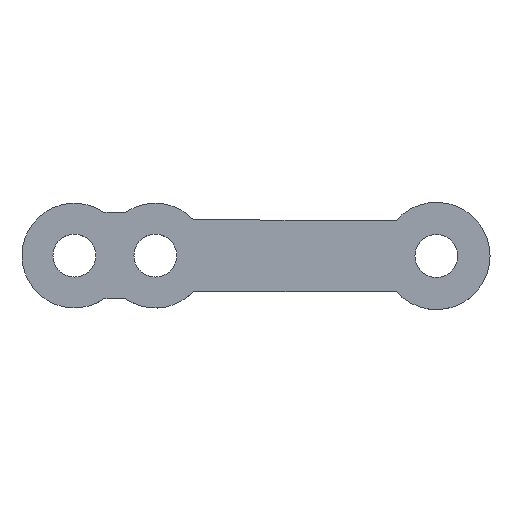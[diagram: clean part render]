
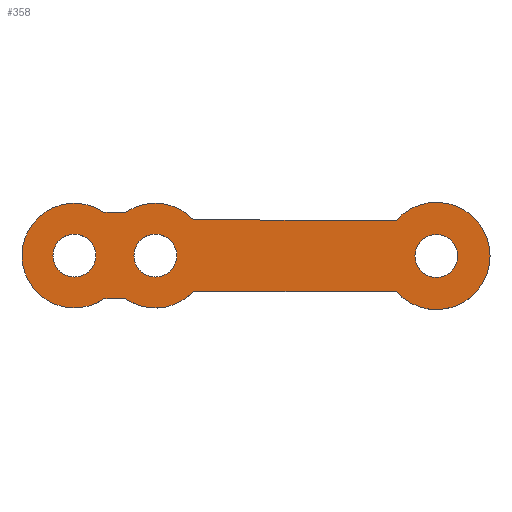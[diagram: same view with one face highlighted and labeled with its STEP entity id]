
A CAD part, top view. The second image highlights one B-rep face of the part: STEP entity #358.
In plain terms, the highlighted planar face has unit normal (0, 0, 1).
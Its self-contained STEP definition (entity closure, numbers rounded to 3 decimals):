
#2 = EDGE_CURVE ( 'NONE', #138, #452, #392, .T. ) ;
#4 = DIRECTION ( 'NONE',  ( 0., 0., 1. ) ) ;
#6 = LINE ( 'NONE', #58, #19 ) ;
#19 = VECTOR ( 'NONE', #344, 1000. ) ;
#28 = CARTESIAN_POINT ( 'NONE',  ( -50.019, -13.106, 2.5 ) ) ;
#32 = VERTEX_POINT ( 'NONE', #627 ) ;
#34 = VERTEX_POINT ( 'NONE', #206 ) ;
#44 = CIRCLE ( 'NONE', #70, 5.629 ) ;
#46 = EDGE_CURVE ( 'NONE', #330, #340, #113, .T. ) ;
#50 = CARTESIAN_POINT ( 'NONE',  ( -64.019, -13.106, 2.5 ) ) ;
#58 = CARTESIAN_POINT ( 'NONE',  ( 0., -8.561, 2.5 ) ) ;
#59 = EDGE_CURVE ( 'NONE', #621, #575, #446, .T. ) ;
#63 = VERTEX_POINT ( 'NONE', #50 ) ;
#70 = AXIS2_PLACEMENT_3D ( 'NONE', #150, #172, #599 ) ;
#71 = AXIS2_PLACEMENT_3D ( 'NONE', #79, #290, #426 ) ;
#79 = CARTESIAN_POINT ( 'NONE',  ( -58.519, -13.106, 2.5 ) ) ;
#89 = DIRECTION ( 'NONE',  ( 1., 0., 0. ) ) ;
#90 = CARTESIAN_POINT ( 'NONE',  ( -55.421, -8.561, 2.5 ) ) ;
#92 = EDGE_LOOP ( 'NONE', ( #309, #250, #154, #311, #356, #378, #310, #116, #269 ) ) ;
#93 = CIRCLE ( 'NONE', #388, 2.25 ) ;
#94 = DIRECTION ( 'NONE',  ( 1., -0.002, 0. ) ) ;
#99 = CARTESIAN_POINT ( 'NONE',  ( -20.519, -13.146, 2.5 ) ) ;
#100 = DIRECTION ( 'NONE',  ( 1., 0., 0. ) ) ;
#105 = EDGE_CURVE ( 'NONE', #32, #347, #6, .T. ) ;
#107 = AXIS2_PLACEMENT_3D ( 'NONE', #464, #205, #213 ) ;
#108 = DIRECTION ( 'NONE',  ( 1., 0., 0. ) ) ;
#113 = CIRCLE ( 'NONE', #576, 5.5 ) ;
#114 = CARTESIAN_POINT ( 'NONE',  ( -45.995, -16.856, 2.5 ) ) ;
#116 = ORIENTED_EDGE ( 'NONE', *, *, #482, .T. ) ;
#120 = CARTESIAN_POINT ( 'NONE',  ( -0.018, -9.442, 2.5 ) ) ;
#123 = LINE ( 'NONE', #629, #200 ) ;
#125 = DIRECTION ( 'NONE',  ( 1., 0., 0. ) ) ;
#128 = VERTEX_POINT ( 'NONE', #403 ) ;
#133 = DIRECTION ( 'NONE',  ( 0., 0., -1. ) ) ;
#138 = VERTEX_POINT ( 'NONE', #598 ) ;
#139 = EDGE_CURVE ( 'NONE', #257, #128, #93, .T. ) ;
#142 = CIRCLE ( 'NONE', #528, 5.5 ) ;
#150 = CARTESIAN_POINT ( 'NONE',  ( -20.519, -13.146, 2.5 ) ) ;
#154 = ORIENTED_EDGE ( 'NONE', *, *, #105, .T. ) ;
#155 = VECTOR ( 'NONE', #332, 1000. ) ;
#172 = DIRECTION ( 'NONE',  ( 0., 0., 1. ) ) ;
#179 = CARTESIAN_POINT ( 'NONE',  ( -58.519, -13.106, 2.5 ) ) ;
#189 = DIRECTION ( 'NONE',  ( 0., 0., 1. ) ) ;
#194 = DIRECTION ( 'NONE',  ( 0., 0., 1. ) ) ;
#199 = CIRCLE ( 'NONE', #71, 5.5 ) ;
#200 = VECTOR ( 'NONE', #467, 1000. ) ;
#202 = EDGE_LOOP ( 'NONE', ( #470, #391 ) ) ;
#204 = EDGE_CURVE ( 'NONE', #416, #340, #123, .T. ) ;
#205 = DIRECTION ( 'NONE',  ( 0., 0., 1. ) ) ;
#206 = CARTESIAN_POINT ( 'NONE',  ( -24.717, -9.396, 2.5 ) ) ;
#213 = DIRECTION ( 'NONE',  ( 1., 0., 0. ) ) ;
#217 = LINE ( 'NONE', #568, #457 ) ;
#246 = ORIENTED_EDGE ( 'NONE', *, *, #139, .F. ) ;
#250 = ORIENTED_EDGE ( 'NONE', *, *, #579, .T. ) ;
#257 = VERTEX_POINT ( 'NONE', #502 ) ;
#260 = EDGE_CURVE ( 'NONE', #494, #34, #44, .T. ) ;
#267 = EDGE_LOOP ( 'NONE', ( #551, #505 ) ) ;
#269 = ORIENTED_EDGE ( 'NONE', *, *, #260, .T. ) ;
#270 = EDGE_CURVE ( 'NONE', #128, #257, #478, .T. ) ;
#275 = AXIS2_PLACEMENT_3D ( 'NONE', #28, #4, #620 ) ;
#276 = DIRECTION ( 'NONE',  ( 1., 0., 0. ) ) ;
#283 = EDGE_CURVE ( 'NONE', #63, #416, #142, .T. ) ;
#290 = DIRECTION ( 'NONE',  ( 0., 0., 1. ) ) ;
#293 = FACE_BOUND ( 'NONE', #563, .T. ) ;
#303 = AXIS2_PLACEMENT_3D ( 'NONE', #560, #194, #89 ) ;
#309 = ORIENTED_EDGE ( 'NONE', *, *, #451, .T. ) ;
#310 = ORIENTED_EDGE ( 'NONE', *, *, #46, .F. ) ;
#311 = ORIENTED_EDGE ( 'NONE', *, *, #443, .T. ) ;
#317 = CARTESIAN_POINT ( 'NONE',  ( -50.019, -13.106, 2.5 ) ) ;
#325 = CARTESIAN_POINT ( 'NONE',  ( -47.769, -13.106, 2.5 ) ) ;
#329 = ORIENTED_EDGE ( 'NONE', *, *, #270, .F. ) ;
#330 = VERTEX_POINT ( 'NONE', #114 ) ;
#332 = DIRECTION ( 'NONE',  ( -1., 0.002, 0. ) ) ;
#340 = VERTEX_POINT ( 'NONE', #538 ) ;
#344 = DIRECTION ( 'NONE',  ( -1., 0., 0. ) ) ;
#347 = VERTEX_POINT ( 'NONE', #90 ) ;
#350 = CARTESIAN_POINT ( 'NONE',  ( -45.995, -9.356, 2.5 ) ) ;
#356 = ORIENTED_EDGE ( 'NONE', *, *, #283, .T. ) ;
#358 = ADVANCED_FACE ( 'NONE', ( #581, #387, #631, #293 ), #436, .T. ) ;
#362 = CIRCLE ( 'NONE', #107, 5.5 ) ;
#378 = ORIENTED_EDGE ( 'NONE', *, *, #204, .T. ) ;
#379 = EDGE_CURVE ( 'NONE', #575, #621, #411, .T. ) ;
#382 = DIRECTION ( 'NONE',  ( 0., 0., 1. ) ) ;
#387 = FACE_BOUND ( 'NONE', #267, .T. ) ;
#388 = AXIS2_PLACEMENT_3D ( 'NONE', #179, #421, #125 ) ;
#389 = CARTESIAN_POINT ( 'NONE',  ( -20.519, -13.146, 2.5 ) ) ;
#391 = ORIENTED_EDGE ( 'NONE', *, *, #379, .F. ) ;
#392 = CIRCLE ( 'NONE', #572, 2.25 ) ;
#397 = CARTESIAN_POINT ( 'NONE',  ( -58.519, -13.106, 2.5 ) ) ;
#403 = CARTESIAN_POINT ( 'NONE',  ( -60.769, -13.106, 2.5 ) ) ;
#411 = CIRCLE ( 'NONE', #571, 2.25 ) ;
#416 = VERTEX_POINT ( 'NONE', #486 ) ;
#421 = DIRECTION ( 'NONE',  ( 0., 0., 1. ) ) ;
#426 = DIRECTION ( 'NONE',  ( 1., 0., 0. ) ) ;
#429 = CARTESIAN_POINT ( 'NONE',  ( -50.019, -13.106, 2.5 ) ) ;
#436 = PLANE ( 'NONE',  #303 ) ;
#439 = VERTEX_POINT ( 'NONE', #350 ) ;
#443 = EDGE_CURVE ( 'NONE', #347, #63, #199, .T. ) ;
#444 = AXIS2_PLACEMENT_3D ( 'NONE', #99, #189, #532 ) ;
#446 = CIRCLE ( 'NONE', #275, 2.25 ) ;
#451 = EDGE_CURVE ( 'NONE', #34, #439, #483, .T. ) ;
#452 = VERTEX_POINT ( 'NONE', #583 ) ;
#457 = VECTOR ( 'NONE', #94, 1000. ) ;
#462 = AXIS2_PLACEMENT_3D ( 'NONE', #503, #536, #276 ) ;
#464 = CARTESIAN_POINT ( 'NONE',  ( -50.019, -13.106, 2.5 ) ) ;
#467 = DIRECTION ( 'NONE',  ( 1., 0., 0. ) ) ;
#468 = DIRECTION ( 'NONE',  ( 0., 0., 1. ) ) ;
#470 = ORIENTED_EDGE ( 'NONE', *, *, #59, .F. ) ;
#478 = CIRCLE ( 'NONE', #462, 2.25 ) ;
#482 = EDGE_CURVE ( 'NONE', #330, #494, #217, .T. ) ;
#483 = LINE ( 'NONE', #120, #155 ) ;
#486 = CARTESIAN_POINT ( 'NONE',  ( -55.421, -17.651, 2.5 ) ) ;
#494 = VERTEX_POINT ( 'NONE', #569 ) ;
#502 = CARTESIAN_POINT ( 'NONE',  ( -56.269, -13.106, 2.5 ) ) ;
#503 = CARTESIAN_POINT ( 'NONE',  ( -58.519, -13.106, 2.5 ) ) ;
#505 = ORIENTED_EDGE ( 'NONE', *, *, #600, .F. ) ;
#528 = AXIS2_PLACEMENT_3D ( 'NONE', #397, #468, #573 ) ;
#532 = DIRECTION ( 'NONE',  ( 1., 0., 0. ) ) ;
#536 = DIRECTION ( 'NONE',  ( 0., 0., 1. ) ) ;
#538 = CARTESIAN_POINT ( 'NONE',  ( -53.116, -17.651, 2.5 ) ) ;
#549 = DIRECTION ( 'NONE',  ( 0., 0., 1. ) ) ;
#551 = ORIENTED_EDGE ( 'NONE', *, *, #2, .F. ) ;
#560 = CARTESIAN_POINT ( 'NONE',  ( 0., 0., 2.5 ) ) ;
#563 = EDGE_LOOP ( 'NONE', ( #329, #246 ) ) ;
#568 = CARTESIAN_POINT ( 'NONE',  ( -0.032, -16.942, 2.5 ) ) ;
#569 = CARTESIAN_POINT ( 'NONE',  ( -24.718, -16.896, 2.5 ) ) ;
#571 = AXIS2_PLACEMENT_3D ( 'NONE', #317, #382, #108 ) ;
#572 = AXIS2_PLACEMENT_3D ( 'NONE', #389, #549, #633 ) ;
#573 = DIRECTION ( 'NONE',  ( 1., 0., 0. ) ) ;
#575 = VERTEX_POINT ( 'NONE', #325 ) ;
#576 = AXIS2_PLACEMENT_3D ( 'NONE', #429, #133, #100 ) ;
#579 = EDGE_CURVE ( 'NONE', #439, #32, #362, .T. ) ;
#581 = FACE_BOUND ( 'NONE', #202, .T. ) ;
#583 = CARTESIAN_POINT ( 'NONE',  ( -18.269, -13.146, 2.5 ) ) ;
#592 = CARTESIAN_POINT ( 'NONE',  ( -52.269, -13.106, 2.5 ) ) ;
#598 = CARTESIAN_POINT ( 'NONE',  ( -22.769, -13.146, 2.5 ) ) ;
#599 = DIRECTION ( 'NONE',  ( 1., 0., 0. ) ) ;
#600 = EDGE_CURVE ( 'NONE', #452, #138, #634, .T. ) ;
#620 = DIRECTION ( 'NONE',  ( 1., 0., 0. ) ) ;
#621 = VERTEX_POINT ( 'NONE', #592 ) ;
#627 = CARTESIAN_POINT ( 'NONE',  ( -53.116, -8.561, 2.5 ) ) ;
#629 = CARTESIAN_POINT ( 'NONE',  ( 0., -17.651, 2.5 ) ) ;
#631 = FACE_OUTER_BOUND ( 'NONE', #92, .T. ) ;
#633 = DIRECTION ( 'NONE',  ( 1., 0., 0. ) ) ;
#634 = CIRCLE ( 'NONE', #444, 2.25 ) ;
